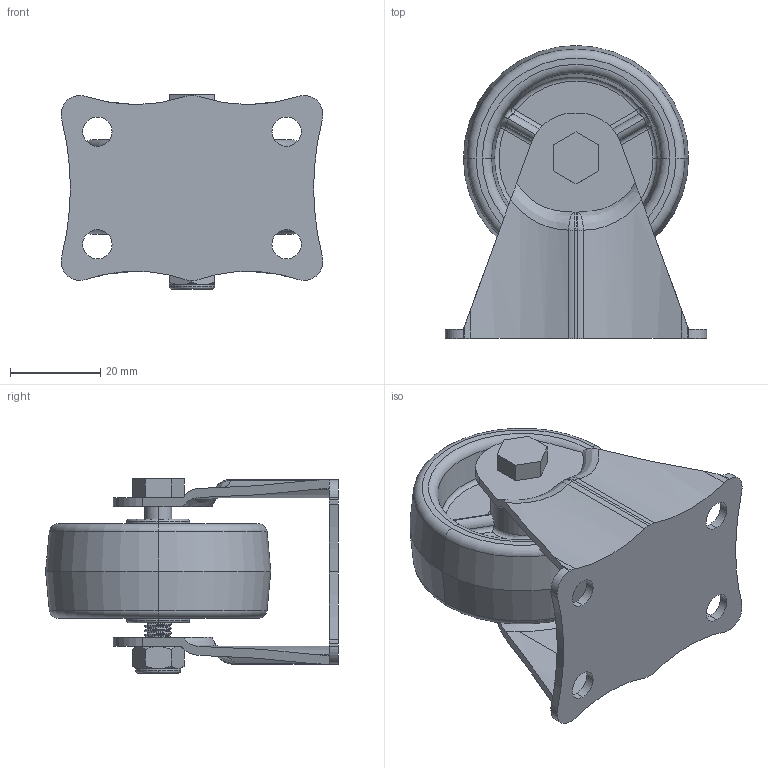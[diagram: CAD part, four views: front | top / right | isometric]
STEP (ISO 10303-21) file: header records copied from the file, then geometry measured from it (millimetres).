
FILE_DESCRIPTION (( 'STEP AP214' ), '1' );
FILE_NAME ('WLN50-F.step', '2024-01-15T01:45:17', ( '' ), ( '' ), 'SwSTEP 2.0', 'SolidWorks 2022', '' );
FILE_SCHEMA (( 'AUTOMOTIVE_DESIGN' ));
Length unit declared in the file: millimetre
Products named in the file (5): WLN 50mm; M6NYLOC-WHITE; M6X35; WLN50-F; WL50-F
Assembly tree (4 placements, depth 2):
  WLN50-F
    WL50-F
    M6X35
    M6NYLOC-WHITE
    WLN 50mm
Bounding box: 58 x 65.02 x 43.2 mm (x, y, z)
Volume: 34526.6 mm3; surface area: 22385.1 mm2
Topology: 4 solids, 4 shells, 306 faces, 758 edges, 458 vertices
Faces by surface type: cylinder 129, plane 61, torus 42, bspline 38, cone 22, sphere 14
Entity records: 14522 total; most frequent: CARTESIAN_POINT 7197, ORIENTED_EDGE 1500, DIRECTION 1366, EDGE_CURVE 750, AXIS2_PLACEMENT_3D 562, VERTEX_POINT 458, EDGE_LOOP 328, ADVANCED_FACE 306
